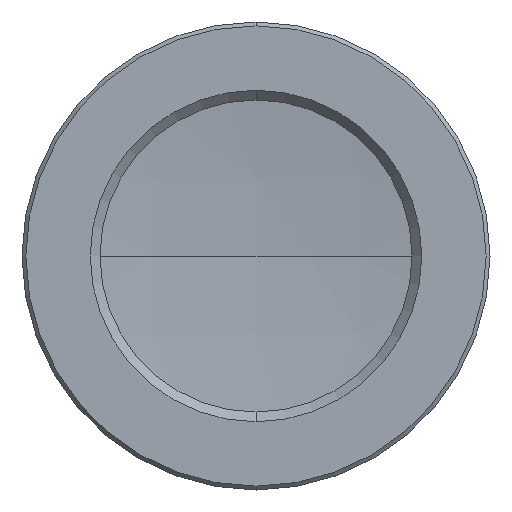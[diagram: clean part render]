
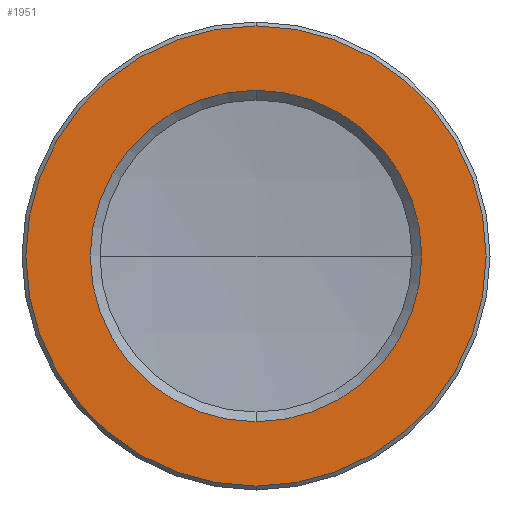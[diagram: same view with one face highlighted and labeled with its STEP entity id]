
A CAD part, front view. The second image highlights one B-rep face of the part: STEP entity #1951.
In plain terms, the highlighted planar face has unit normal (0, -1, 0).
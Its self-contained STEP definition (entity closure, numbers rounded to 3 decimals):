
#14 = EDGE_CURVE ( 'NONE', #6865, #766, #5231, .T. ) ;
#107 = EDGE_CURVE ( 'NONE', #4004, #4249, #6820, .T. ) ;
#251 = CARTESIAN_POINT ( 'NONE',  ( 0., 36., 0. ) ) ;
#766 = VERTEX_POINT ( 'NONE', #3937 ) ;
#879 = EDGE_LOOP ( 'NONE', ( #6160, #5456 ) ) ;
#925 = AXIS2_PLACEMENT_3D ( 'NONE', #3625, #5877, #2463 ) ;
#1456 = AXIS2_PLACEMENT_3D ( 'NONE', #4482, #3355, #4441 ) ;
#1492 = CARTESIAN_POINT ( 'NONE',  ( 0., 36., 8.5 ) ) ;
#1538 = DIRECTION ( 'NONE',  ( 0., 0., -1. ) ) ;
#1619 = AXIS2_PLACEMENT_3D ( 'NONE', #5439, #6026, #1538 ) ;
#1951 = ADVANCED_FACE ( 'NONE', ( #4069, #1973 ), #6567, .T. ) ;
#1973 = FACE_OUTER_BOUND ( 'NONE', #879, .T. ) ;
#2102 = AXIS2_PLACEMENT_3D ( 'NONE', #251, #6429, #6999 ) ;
#2147 = CARTESIAN_POINT ( 'NONE',  ( 0., 36., -8.5 ) ) ;
#2258 = DIRECTION ( 'NONE',  ( 0., -1., 0. ) ) ;
#2463 = DIRECTION ( 'NONE',  ( 0., 0., -1. ) ) ;
#2540 = ORIENTED_EDGE ( 'NONE', *, *, #107, .T. ) ;
#2798 = DIRECTION ( 'NONE',  ( 0., 0., -1. ) ) ;
#2839 = CIRCLE ( 'NONE', #925, 11.8 ) ;
#3282 = EDGE_CURVE ( 'NONE', #766, #6865, #2839, .T. ) ;
#3355 = DIRECTION ( 'NONE',  ( 0., -1., 0. ) ) ;
#3625 = CARTESIAN_POINT ( 'NONE',  ( 0., 36., 0. ) ) ;
#3937 = CARTESIAN_POINT ( 'NONE',  ( 0., 36., 11.8 ) ) ;
#4004 = VERTEX_POINT ( 'NONE', #2147 ) ;
#4069 = FACE_BOUND ( 'NONE', #5281, .T. ) ;
#4249 = VERTEX_POINT ( 'NONE', #1492 ) ;
#4256 = CARTESIAN_POINT ( 'NONE',  ( 0., 36., -11.8 ) ) ;
#4441 = DIRECTION ( 'NONE',  ( 0., 0., -1. ) ) ;
#4461 = AXIS2_PLACEMENT_3D ( 'NONE', #4504, #2258, #2798 ) ;
#4482 = CARTESIAN_POINT ( 'NONE',  ( 0., 36., 0. ) ) ;
#4504 = CARTESIAN_POINT ( 'NONE',  ( 12., 36., 0. ) ) ;
#5231 = CIRCLE ( 'NONE', #1456, 11.8 ) ;
#5281 = EDGE_LOOP ( 'NONE', ( #2540, #5647 ) ) ;
#5334 = EDGE_CURVE ( 'NONE', #4249, #4004, #5365, .T. ) ;
#5365 = CIRCLE ( 'NONE', #1619, 8.5 ) ;
#5439 = CARTESIAN_POINT ( 'NONE',  ( 0., 36., 0. ) ) ;
#5456 = ORIENTED_EDGE ( 'NONE', *, *, #14, .T. ) ;
#5647 = ORIENTED_EDGE ( 'NONE', *, *, #5334, .T. ) ;
#5877 = DIRECTION ( 'NONE',  ( 0., -1., 0. ) ) ;
#6026 = DIRECTION ( 'NONE',  ( 0., 1., 0. ) ) ;
#6160 = ORIENTED_EDGE ( 'NONE', *, *, #3282, .T. ) ;
#6429 = DIRECTION ( 'NONE',  ( 0., 1., 0. ) ) ;
#6567 = PLANE ( 'NONE',  #4461 ) ;
#6820 = CIRCLE ( 'NONE', #2102, 8.5 ) ;
#6865 = VERTEX_POINT ( 'NONE', #4256 ) ;
#6999 = DIRECTION ( 'NONE',  ( 0., 0., -1. ) ) ;
